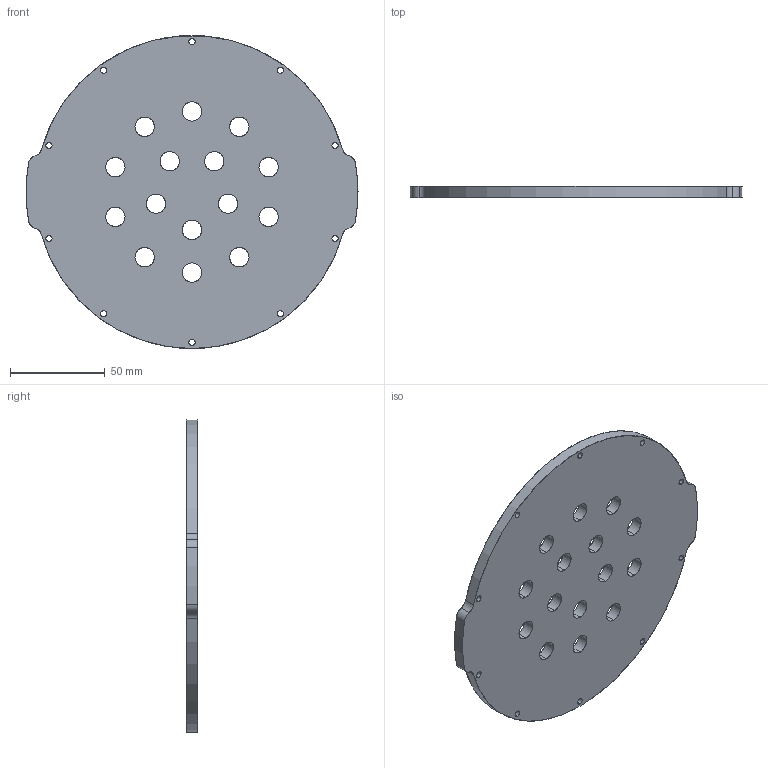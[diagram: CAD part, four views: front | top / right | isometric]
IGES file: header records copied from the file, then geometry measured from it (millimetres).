
Start section: SolidWorks IGES file using analytic representation for surfaces
Global section: file name: C:\Users\Brian\Desktop\WTE6-M-END-CAP-15-10MMX1A\WTE6-M-END-CAP-15-10MM-R1.IGS; native system: SolidWorks 2014; preprocessor: SolidWorks 2014; author: Brian; date: 170511.165011; units: millimetre
Bounding box: 175.1 x 6 x 165.1 mm (x, y, z)
Surface area: 47650 mm2 (no closed solid volume)
Topology: 0 solids, 0 shells, 65 faces, 1740 edges, 1740 vertices
Faces by surface type: revolution 63, bspline 2
